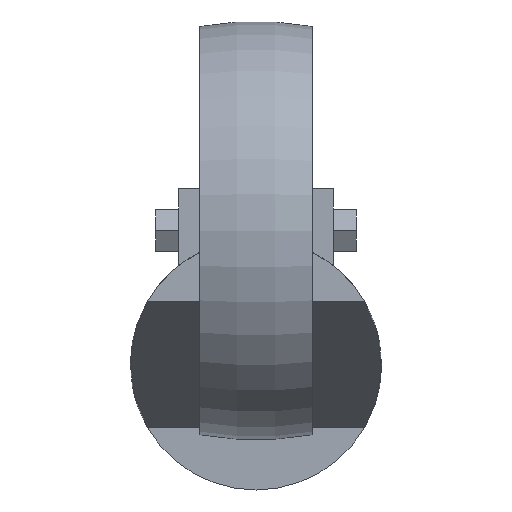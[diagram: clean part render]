
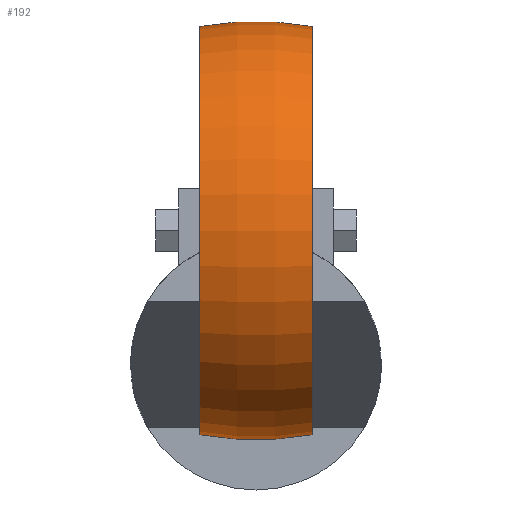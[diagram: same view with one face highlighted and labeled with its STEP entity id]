
A CAD part, front view. The second image highlights one B-rep face of the part: STEP entity #192.
In plain terms, the highlighted toroidal (fillet/blend) face has major radius 25 mm and minor radius 75 mm.
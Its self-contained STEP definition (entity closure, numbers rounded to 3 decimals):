
#8 = ORIENTED_EDGE ( 'NONE', *, *, #1075, .F. ) ;
#43 = CARTESIAN_POINT ( 'NONE',  ( 0., -77., 7. ) ) ;
#77 = DIRECTION ( 'NONE',  ( -1., 0., 0. ) ) ;
#139 = EDGE_CURVE ( 'NONE', #1185, #1306, #1236, .T. ) ;
#149 = DIRECTION ( 'NONE',  ( 0., 0., -1. ) ) ;
#192 = ADVANCED_FACE ( 'NONE', ( #985 ), #708, .T. ) ;
#197 = CARTESIAN_POINT ( 'NONE',  ( 0., -77., 32. ) ) ;
#198 = AXIS2_PLACEMENT_3D ( 'NONE', #1011, #510, #915 ) ;
#236 = AXIS2_PLACEMENT_3D ( 'NONE', #1162, #1155, #251 ) ;
#251 = DIRECTION ( 'NONE',  ( 0., 0., 1. ) ) ;
#295 = EDGE_CURVE ( 'NONE', #1023, #1185, #999, .T. ) ;
#392 = DIRECTION ( 'NONE',  ( 0., 0., 1. ) ) ;
#407 = AXIS2_PLACEMENT_3D ( 'NONE', #945, #443, #1168 ) ;
#419 = ORIENTED_EDGE ( 'NONE', *, *, #295, .T. ) ;
#443 = DIRECTION ( 'NONE',  ( -1., 0., 0. ) ) ;
#454 = CARTESIAN_POINT ( 'NONE',  ( 13.5, -77., -16.775 ) ) ;
#510 = DIRECTION ( 'NONE',  ( -1., 0., 0. ) ) ;
#514 = CIRCLE ( 'NONE', #236, 75. ) ;
#543 = VERTEX_POINT ( 'NONE', #881 ) ;
#616 = ORIENTED_EDGE ( 'NONE', *, *, #713, .F. ) ;
#708 = TOROIDAL_SURFACE ( 'NONE', #937, -25., 75. ) ;
#713 = EDGE_CURVE ( 'NONE', #1023, #543, #514, .T. ) ;
#824 = CARTESIAN_POINT ( 'NONE',  ( -13.5, -77., 80.775 ) ) ;
#881 = CARTESIAN_POINT ( 'NONE',  ( -13.5, -77., -16.775 ) ) ;
#915 = DIRECTION ( 'NONE',  ( 0., 0., 1. ) ) ;
#937 = AXIS2_PLACEMENT_3D ( 'NONE', #197, #77, #392 ) ;
#945 = CARTESIAN_POINT ( 'NONE',  ( -13.5, -77., 32. ) ) ;
#973 = CARTESIAN_POINT ( 'NONE',  ( 13.5, -77., 80.775 ) ) ;
#974 = CIRCLE ( 'NONE', #407, 48.775 ) ;
#985 = FACE_OUTER_BOUND ( 'NONE', #1152, .T. ) ;
#999 = CIRCLE ( 'NONE', #198, 48.775 ) ;
#1010 = ORIENTED_EDGE ( 'NONE', *, *, #139, .T. ) ;
#1011 = CARTESIAN_POINT ( 'NONE',  ( 13.5, -77., 32. ) ) ;
#1023 = VERTEX_POINT ( 'NONE', #454 ) ;
#1075 = EDGE_CURVE ( 'NONE', #543, #1306, #974, .T. ) ;
#1152 = EDGE_LOOP ( 'NONE', ( #616, #419, #1010, #8 ) ) ;
#1155 = DIRECTION ( 'NONE',  ( 0., 1., 0. ) ) ;
#1162 = CARTESIAN_POINT ( 'NONE',  ( 0., -77., 57. ) ) ;
#1168 = DIRECTION ( 'NONE',  ( 0., 0., 1. ) ) ;
#1175 = AXIS2_PLACEMENT_3D ( 'NONE', #43, #1256, #149 ) ;
#1185 = VERTEX_POINT ( 'NONE', #973 ) ;
#1236 = CIRCLE ( 'NONE', #1175, 75. ) ;
#1256 = DIRECTION ( 'NONE',  ( 0., -1., 0. ) ) ;
#1306 = VERTEX_POINT ( 'NONE', #824 ) ;
